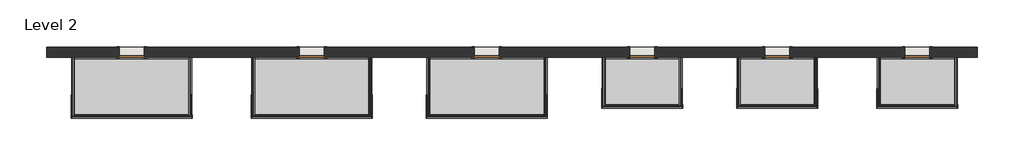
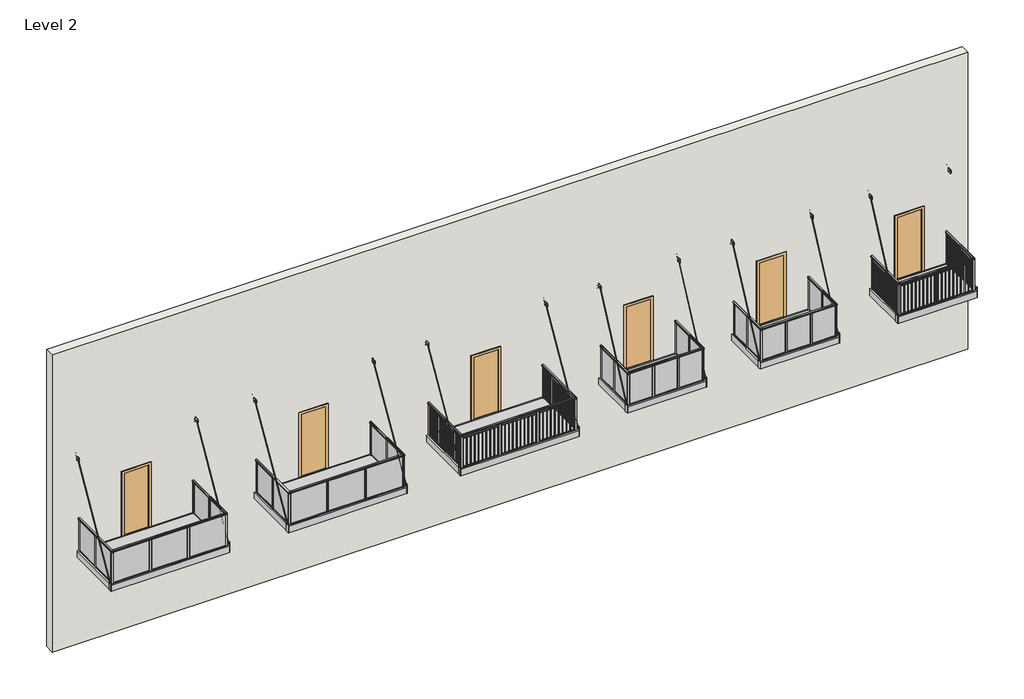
# One storey: 6 doors, 6 proxies, 1 wall.
"""IFC4 building model written with IfcOpenShell, lengths in millimetres."""

from ifc_helpers import new_model, si_unit, frame, origin, place, context, project, spatial, polyline, outline, extrude, transform, mapped, element, save
from components import specialty_equipment_351d1645, specialty_equipment_2b6d5515, glass_railing_5_x_8_6d0afec7, glass_railing_6_x_12_6d85de85, panel_railing_5_x_8_d80856ef, panel_railing_6_x_12_2e06ce5a, door_d9178966

model = new_model("IFC4")

# Units and contexts
model_context = context("Model", 3, world=origin())
ifc_project = project(units=[si_unit("LENGTHUNIT", "METRE", prefix="MILLI")], contexts=[model_context])

# Site, building, storey
site = spatial("IfcSite", under=ifc_project)
building = spatial("IfcBuilding", under=site)
storey = spatial("IfcBuildingStorey", under=building, Name="Level 2", Elevation=0.0)

# Proxies
placement = place(None, origin())
specialty_equipment_shape = specialty_equipment_351d1645(model_context)
element("IfcBuildingElementProxy", 1, Name="Specialty-Equipment_Endurable-Building-Products_Standard-Balcony : Vertical Pickets 6' x 12'", ObjectType="Specialty-Equipment_Endurable-Building-Products_Standard-Balcony : Vertical Pickets 6' x 12'", at=placement, inside=storey, context=model_context, shape_type="MappedRepresentation", body=[
    mapped(specialty_equipment_shape, transform((2883.5836065, 1732.6002498, 0.0), x_axis=(1.0, 0.0, 0.0), y_axis=(0.0, 1.0, 0.0), z_axis=(0.0, 0.0, 1.0))),
])
specialty_equipment_2_shape = specialty_equipment_2b6d5515(model_context)
element("IfcBuildingElementProxy", 2, Name="Specialty-Equipment_Endurable-Building-Products_Standard-Balcony : Vertical Pickets 5' x 8'", ObjectType="Specialty-Equipment_Endurable-Building-Products_Standard-Balcony : Vertical Pickets 5' x 8'", at=placement, inside=storey, context=model_context, shape_type="MappedRepresentation", body=[
    mapped(specialty_equipment_2_shape, transform((15989.9836065, 1732.6002498, 0.0), x_axis=(1.0, 0.0, 0.0), y_axis=(0.0, 1.0, 0.0), z_axis=(0.0, 0.0, 1.0))),
])
glass_railing_5_x_8_shape = glass_railing_5_x_8_6d0afec7(model_context)
element("IfcBuildingElementProxy", 3, Name="Specialty-Equipment_Endurable-Building-Products_Standard-Balcony : Glass Railing 5' x 8'", ObjectType="Specialty-Equipment_Endurable-Building-Products_Standard-Balcony : Glass Railing 5' x 8'", at=placement, inside=storey, context=model_context, shape_type="MappedRepresentation", body=[
    mapped(glass_railing_5_x_8_shape, transform((7607.9836065, 1732.6002498, 0.0), x_axis=(1.0, 0.0, 0.0), y_axis=(0.0, 1.0, 0.0), z_axis=(0.0, 0.0, 1.0))),
])
glass_railing_6_x_12_shape = glass_railing_6_x_12_6d85de85(model_context)
element("IfcBuildingElementProxy", 4, Name="Specialty-Equipment_Endurable-Building-Products_Standard-Balcony : Glass Railing 6' x 12'", ObjectType="Specialty-Equipment_Endurable-Building-Products_Standard-Balcony : Glass Railing 6' x 12'", at=placement, inside=storey, context=model_context, shape_type="MappedRepresentation", body=[
    mapped(glass_railing_6_x_12_shape, transform((-7936.8163935, 1732.6002498, 0.0), x_axis=(1.0, 0.0, 0.0), y_axis=(0.0, 1.0, 0.0), z_axis=(0.0, 0.0, 1.0))),
])
panel_railing_5_x_8_shape = panel_railing_5_x_8_d80856ef(model_context)
element("IfcBuildingElementProxy", 5, Name="Specialty-Equipment_Endurable-Building-Products_Standard-Balcony : Panel Railing 5' x 8'", ObjectType="Specialty-Equipment_Endurable-Building-Products_Standard-Balcony : Panel Railing 5' x 8'", at=placement, inside=storey, context=model_context, shape_type="MappedRepresentation", body=[
    mapped(panel_railing_5_x_8_shape, transform((11722.7836065, 1732.6002498, 0.0), x_axis=(1.0, 0.0, 0.0), y_axis=(0.0, 1.0, 0.0), z_axis=(0.0, 0.0, 1.0))),
])
panel_railing_6_x_12_shape = panel_railing_6_x_12_2e06ce5a(model_context)
element("IfcBuildingElementProxy", 6, Name="Specialty-Equipment_Endurable-Building-Products_Standard-Balcony : Panel Railing 6' x 12'", ObjectType="Specialty-Equipment_Endurable-Building-Products_Standard-Balcony : Panel Railing 6' x 12'", at=placement, inside=storey, context=model_context, shape_type="MappedRepresentation", body=[
    mapped(panel_railing_6_x_12_shape, transform((-2450.4163935, 1732.6002498, 0.0), x_axis=(1.0, 0.0, 0.0), y_axis=(0.0, 1.0, 0.0), z_axis=(0.0, 0.0, 1.0))),
])

# Doors
door_shape = door_d9178966(model_context)
element("IfcDoor", 7, ObjectType="Single-Flush : 30\" x 80\"", at=placement, inside=storey, context=model_context, shape_type="MappedRepresentation", body=[
    mapped(door_shape, transform((-7936.8163935, 1885.0002498, 19.05), x_axis=(1.0, 0.0, 0.0), y_axis=(0.0, 1.0, 0.0), z_axis=(0.0, 0.0, 1.0))),
])
element("IfcDoor", 8, ObjectType="Single-Flush : 30\" x 80\"", at=placement, inside=storey, context=model_context, shape_type="MappedRepresentation", body=[
    mapped(door_shape, transform((-2450.4163935, 1885.0002498, 19.05), x_axis=(1.0, 0.0, 0.0), y_axis=(0.0, 1.0, 0.0), z_axis=(0.0, 0.0, 1.0))),
])
element("IfcDoor", 9, ObjectType="Single-Flush : 30\" x 80\"", at=placement, inside=storey, context=model_context, shape_type="MappedRepresentation", body=[
    mapped(door_shape, transform((2883.5836065, 1885.0002498, 19.05), x_axis=(1.0, 0.0, 0.0), y_axis=(0.0, 1.0, 0.0), z_axis=(0.0, 0.0, 1.0))),
])
element("IfcDoor", 10, ObjectType="Single-Flush : 30\" x 80\"", at=placement, inside=storey, context=model_context, shape_type="MappedRepresentation", body=[
    mapped(door_shape, transform((7607.9836065, 1885.0002498, 19.05), x_axis=(1.0, 0.0, 0.0), y_axis=(0.0, 1.0, 0.0), z_axis=(0.0, 0.0, 1.0))),
])
element("IfcDoor", 11, ObjectType="Single-Flush : 30\" x 80\"", at=placement, inside=storey, context=model_context, shape_type="MappedRepresentation", body=[
    mapped(door_shape, transform((11722.7836065, 1885.0002498, 19.05), x_axis=(1.0, 0.0, 0.0), y_axis=(0.0, 1.0, 0.0), z_axis=(0.0, 0.0, 1.0))),
])
element("IfcDoor", 12, ObjectType="Single-Flush : 30\" x 80\"", at=placement, inside=storey, context=model_context, shape_type="MappedRepresentation", body=[
    mapped(door_shape, transform((15989.9836065, 1885.0002498, 19.05), x_axis=(1.0, 0.0, 0.0), y_axis=(0.0, 1.0, 0.0), z_axis=(0.0, 0.0, 1.0))),
])

# Wall
element("IfcWall", 13, ObjectType="Generic - 12\"", at=placement, inside=storey, context=model_context, shape_type="SweptSolid", body=[
    extrude(outline(polyline([(-3048.0, -10527.6163935), (-3048.0, 17818.7836065), (6676.9504699, 17818.7836065), (6676.9504699, -10527.6163935), (-3048.0, -10527.6163935)]), holes=[polyline([(19.05, -8317.8163935), (2051.05, -8317.8163935), (2051.05, -7555.8163935), (19.05, -7555.8163935), (19.05, -8317.8163935)]), polyline([(19.05, -2831.4163935), (2051.05, -2831.4163935), (2051.05, -2069.4163935), (19.05, -2069.4163935), (19.05, -2831.4163935)]), polyline([(19.05, 2502.5836065), (2051.05, 2502.5836065), (2051.05, 3264.5836065), (19.05, 3264.5836065), (19.05, 2502.5836065)]), polyline([(19.05, 15608.9836065), (2051.05, 15608.9836065), (2051.05, 16370.9836065), (19.05, 16370.9836065), (19.05, 15608.9836065)]), polyline([(19.05, 11341.7836065), (2051.05, 11341.7836065), (2051.05, 12103.7836065), (19.05, 12103.7836065), (19.05, 11341.7836065)]), polyline([(19.05, 7226.9836065), (2051.05, 7226.9836065), (2051.05, 7988.9836065), (19.05, 7988.9836065), (19.05, 7226.9836065)])]), frame((0.0, 1732.6002498, 0.0), z_axis=(0.0, 1.0, 0.0), x_axis=(0.0, 0.0, 1.0)), (0.0, 0.0, 1.0), 304.8),
])

save(model, "model.ifc")
